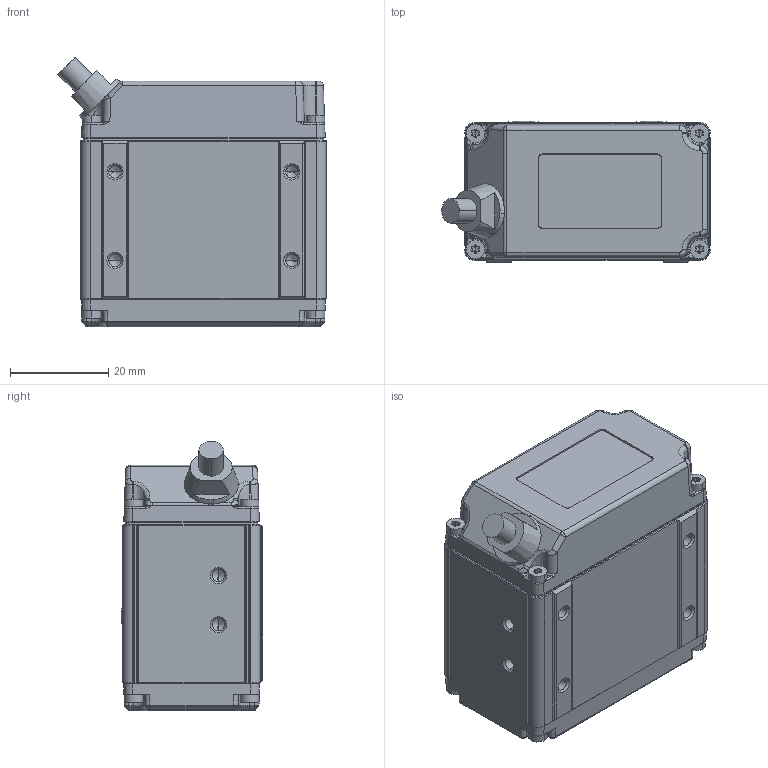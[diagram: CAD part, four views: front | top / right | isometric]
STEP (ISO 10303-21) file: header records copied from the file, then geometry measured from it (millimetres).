
FILE_DESCRIPTION((''),'2;1');
FILE_NAME('DH2-RD003284-6021_1_1_2_3_4_5','2023-11-30T18:15:40',('111079'),(''),'CREO PARAMETRIC BY PTC INC, 2020184','CREO PARAMETRIC BY PTC INC, 2020184','');
FILE_SCHEMA(('CONFIG_CONTROL_DESIGN','SHAPE_APPEARANCE_LAYERS_GROUPS'));
Length unit declared in the file: millimetre
Products named in the file (1): DH2-RD003284-6021_1_1_2_3_4_5
Bounding box: 54.64 x 28.82 x 54.84 mm (x, y, z)
Volume: 67521.1 mm3; surface area: 11204 mm2
Topology: 1 solids, 1 shells, 609 faces, 1592 edges, 968 vertices
Faces by surface type: cylinder 240, plane 189, cone 110, bspline 46, torus 18, sphere 6
Entity records: 22450 total; most frequent: CARTESIAN_POINT 6107, DIRECTION 3278, ORIENTED_EDGE 3092, EDGE_CURVE 1546, AXIS2_PLACEMENT_3D 1310, VERTEX_POINT 968, CIRCLE 747, VECTOR 658
